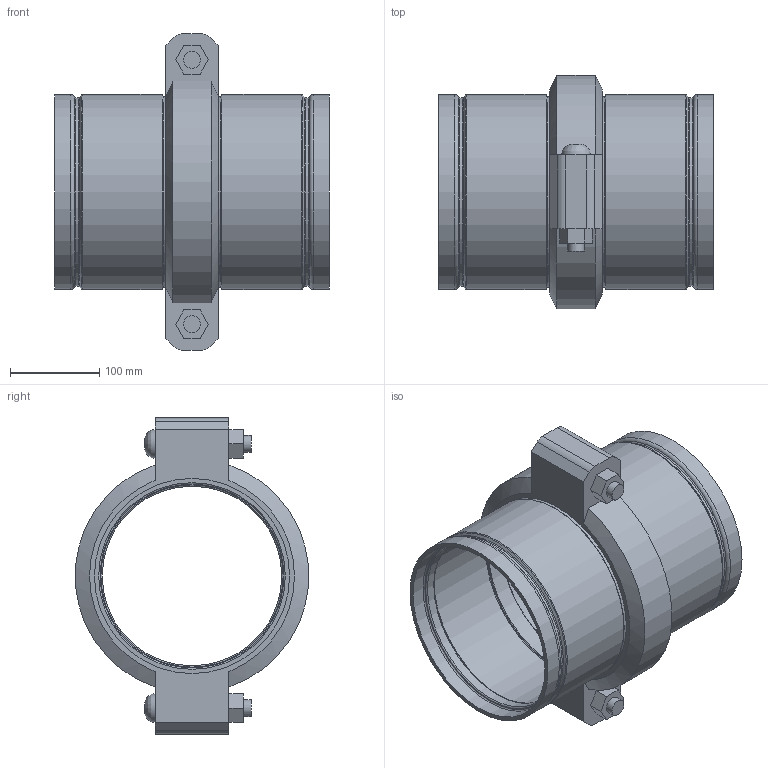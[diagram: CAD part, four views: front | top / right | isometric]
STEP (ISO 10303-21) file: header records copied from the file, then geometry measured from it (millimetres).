
FILE_DESCRIPTION(/* description */ ('VIC STRENGTHIN 100 EXPANSION JOINT 1 COUPLING NEUTRAL STYLE E155 (ST1)','CAx-IF Rec.Pracs.---Representation and Presentation of Product Manufacturing Information (PMI)---4.0---2014-10-13'),/* implementation_level */ '2;1');
FILE_NAME(/* name */ 'C:\Users\Vjadhav\AppData\Roaming\Autodesk\ApplicationPlugins\Victaulic.Temp\A726\Victaulic_SS-StrengThin 100_Expansion Joint_Neutral_1 Coupling_Style E155 (ST1)_1 Coup_Neut_8 (200).stp',/* time_stamp */ '2021-07-20T17:38:52+05:00',/* author */ ('kkamble'),/* organization */ ('Victaulic'),/* preprocessor_version */ 'ST-DEVELOPER v17.2',/* originating_system */ 'Autodesk Inventor 2019',/* authorisation */ '');
FILE_SCHEMA (('AP242_MANAGED_MODEL_BASED_3D_ENGINEERING_MIM_LF { 1 0 10303 442 1 1 4 }'));
Length unit declared in the file: inch
Products named in the file (3): E155-08.0; E494G-08.0; 075-08.0
Assembly tree (3 placements, depth 2):
  E155-08.0
    E494G-08.0  x2
    075-08.0
Bounding box: 308.1 x 261.72 x 354.84 mm (x, y, z)
Volume: 2411088.2 mm3; surface area: 611451.8 mm2
Topology: 3 solids, 5 shells, 127 faces, 363 edges, 264 vertices
Faces by surface type: plane 50, cylinder 35, torus 32, cone 8, bspline 2
Full cylindrical faces by diameter (mm): 19.05 x4, 21.209 x2, 201.651 x2, 204.851 x2, 209.525 x6, 211.201 x2, 212.725 x1, 214.401 x2, 219.075 x8
Entity records: 3301 total; most frequent: CARTESIAN_POINT 591, DIRECTION 579, ORIENTED_EDGE 496, EDGE_CURVE 248, AXIS2_PLACEMENT_3D 243, VERTEX_POINT 177, CIRCLE 147, EDGE_LOOP 113
